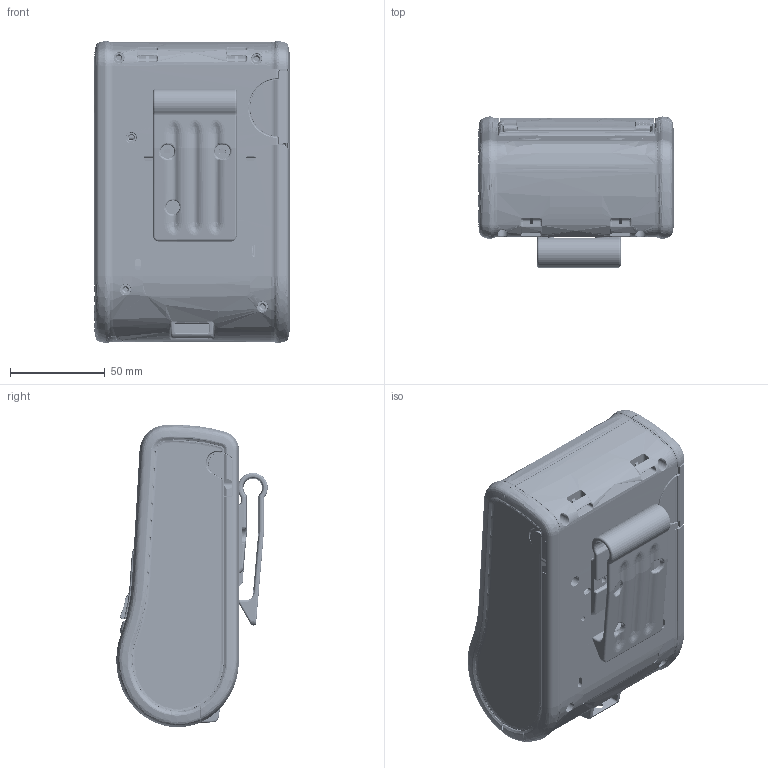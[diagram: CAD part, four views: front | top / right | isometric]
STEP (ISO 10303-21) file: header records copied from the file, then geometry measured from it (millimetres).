
FILE_DESCRIPTION((''),'2;1');
FILE_NAME('GAIKEI_PEELER_CLOSE_SW0001','2025-02-26T15:01:37',('0092109'),(''),'CREO PARAMETRIC BY PTC INC, 2022281','CREO PARAMETRIC BY PTC INC, 2022281','');
FILE_SCHEMA(('AUTOMOTIVE_DESIGN { 1 0 10303 214 1 1 1 1 }'));
Length unit declared in the file: millimetre
Products named in the file (1): GAIKEI_PEELER_CLOSE_SW0001
Bounding box: 102.73 x 79.78 x 159.33 mm (x, y, z)
Surface area: 245318.8 mm2 (no closed solid volume)
Topology: 0 solids, 110 shells, 8539 faces, 25926 edges, 16967 vertices
Faces by surface type: plane 3343, cylinder 2607, bspline 1759, torus 386, sphere 190, cone 176, extrusion 72, revolution 6
Entity records: 440744 total; most frequent: CARTESIAN_POINT 169542, ORIENTED_EDGE 46330, DIRECTION 38804, EDGE_CURVE 25890, VERTEX_POINT 16969, VECTOR 13296, LINE 13224, AXIS2_PLACEMENT_3D 12751
